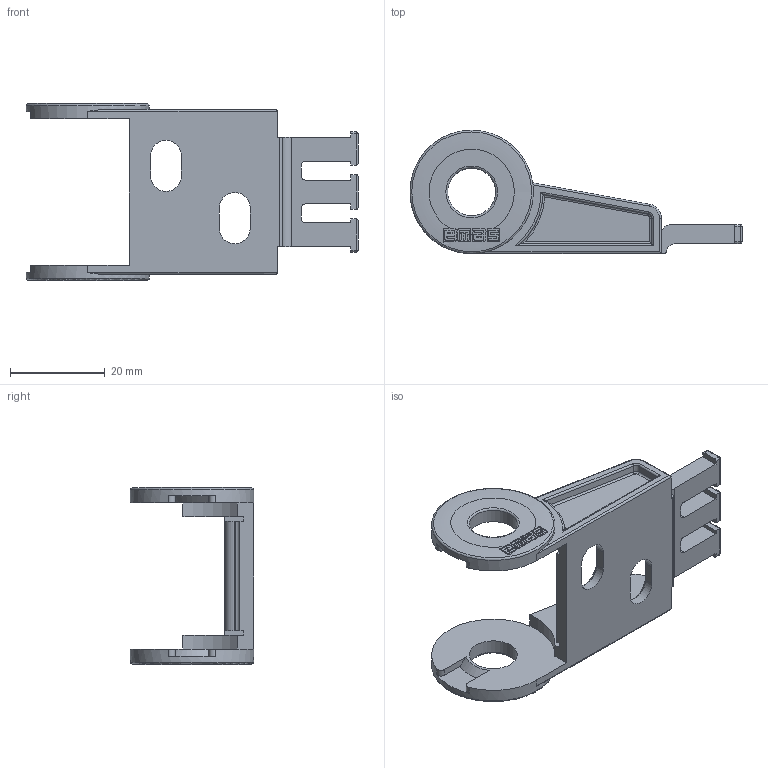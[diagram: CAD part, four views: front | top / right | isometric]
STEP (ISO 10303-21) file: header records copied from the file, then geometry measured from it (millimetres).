
FILE_DESCRIPTION((''),'2; 1');
FILE_NAME('','2026-03-26T10:13:15',(''),(''),'CST STEP Exporter V1.0','Unknown','');
FILE_SCHEMA(('CONFIG_CONTROL_DESIGN'));
Length unit declared in the file: metre
Bounding box: 70 x 26 x 37.4 mm (x, y, z)
Surface area: 7521.1 mm2 (no closed solid volume)
Topology: 0 solids, 1 shells, 351 faces, 1073 edges, 704 vertices
Faces by surface type: plane 183, cylinder 97, extrusion 35, torus 22, cone 10, sphere 4
Full cylindrical faces by diameter (mm): 10.1 x2, 26 x2
Entity records: 16540 total; most frequent: CARTESIAN_POINT 4730, ORIENTED_EDGE 1931, DIRECTION 1673, EDGE_CURVE 1051, VERTEX_POINT 697, VECTOR 661, LINE 626, AXIS2_PLACEMENT_3D 506
